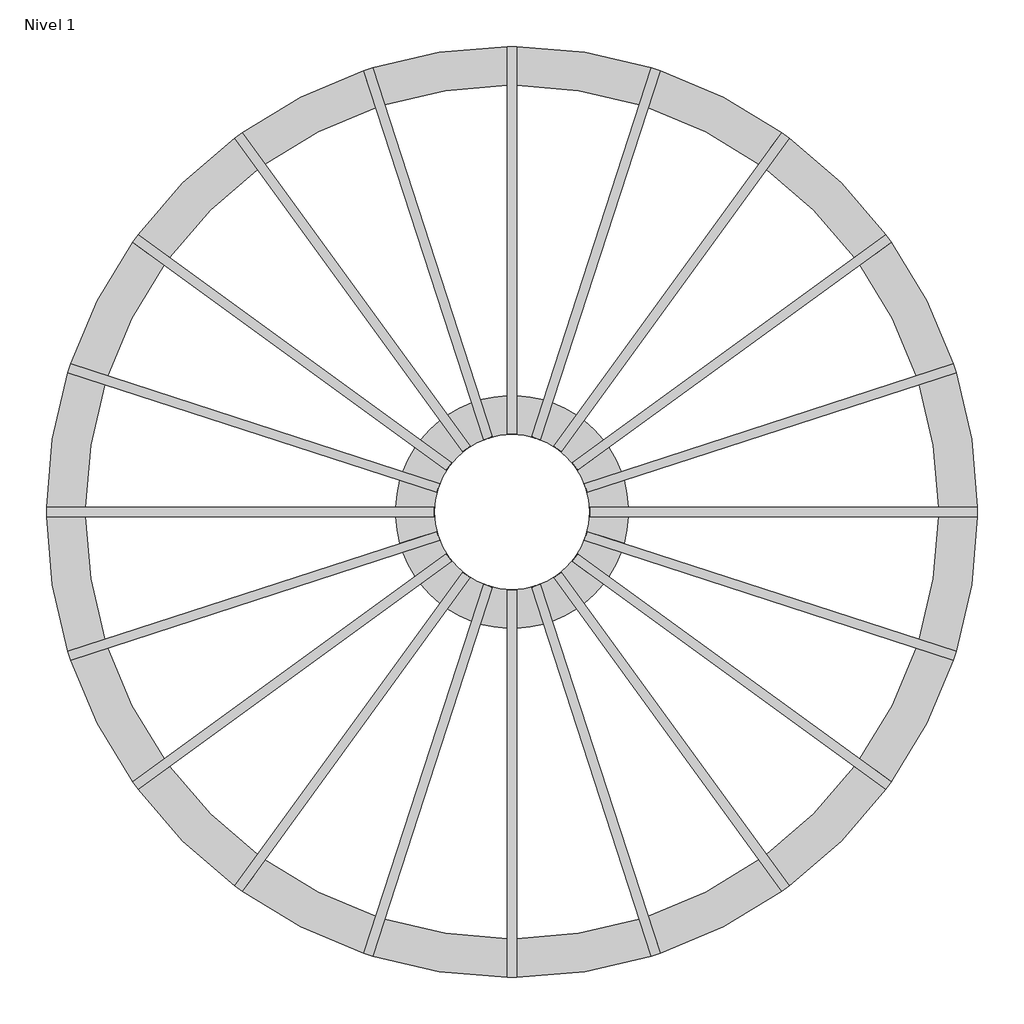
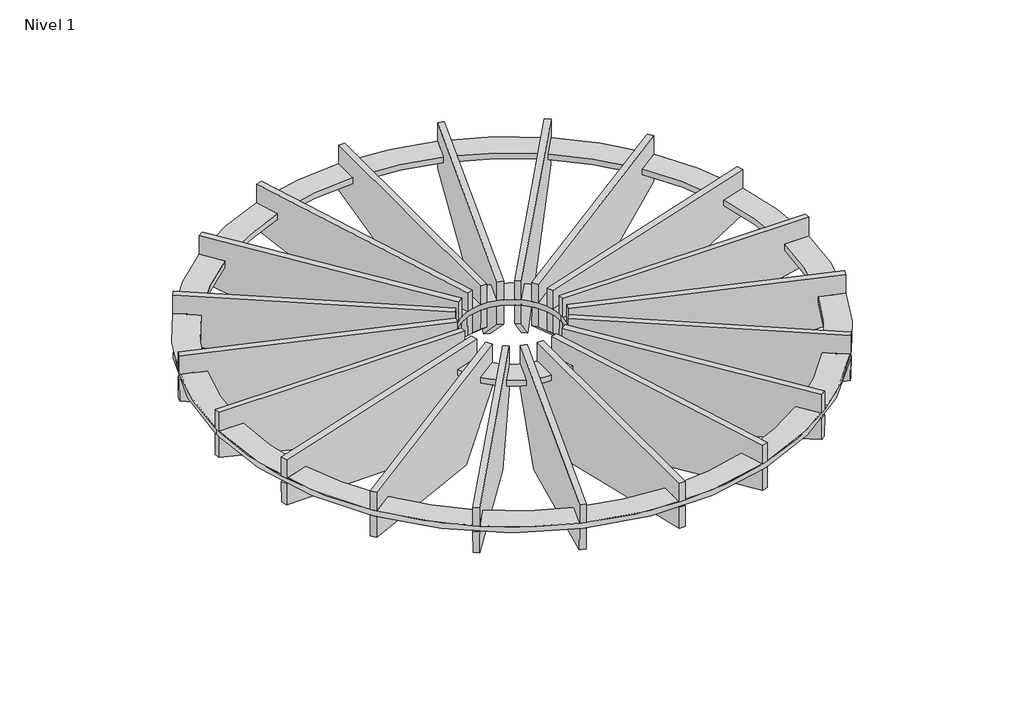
# One storey, incomplete: 1 proxy.
"""IFC4 building model written with IfcOpenShell, lengths in millimetres."""

from ifc_helpers import new_model, si_unit, origin, place, context, project, spatial, transform, mapped, element, save
from components import generic_models_dbc1dc67, generic_models_2821e638, generic_models_4dc89ae3

model = new_model("IFC4")

# Units and contexts
model_context = context("Model", 3, world=origin())
ifc_project = project(units=[si_unit("LENGTHUNIT", "METRE", prefix="MILLI")], contexts=[model_context])

# Site, building, storey
site = spatial("IfcSite", under=ifc_project)
building = spatial("IfcBuilding", under=site)
storey = spatial("IfcBuildingStorey", under=building, Name="Nivel 1", Elevation=0.0)

# Proxy
placement = place(None, origin())
generic_models_shape = generic_models_dbc1dc67(model_context)
generic_models_2_shape = generic_models_2821e638(model_context)
generic_models_3_shape = generic_models_4dc89ae3(model_context)
element("IfcBuildingElementProxy", 1, Name="Drizzle 7.3dm", ObjectType="Drizzle 7.3dm", at=placement, inside=storey, context=model_context, shape_type="MappedRepresentation", body=[
    mapped(generic_models_shape, transform((0.0, 0.0, 0.0), x_axis=(1.0, 0.0, 0.0), y_axis=(0.0, 1.0, 0.0), z_axis=(0.0, 0.0, 1.0))),
    mapped(generic_models_2_shape, transform((0.0, 0.0, 0.0), x_axis=(1.0, 0.0, 0.0), y_axis=(0.0, 1.0, 0.0), z_axis=(0.0, 0.0, 1.0))),
    mapped(generic_models_3_shape, transform((0.0, 0.0, 0.0), x_axis=(1.0, 0.0, 0.0), y_axis=(0.0, 1.0, 0.0), z_axis=(0.0, 0.0, 1.0))),
])

save(model, "model.ifc")
